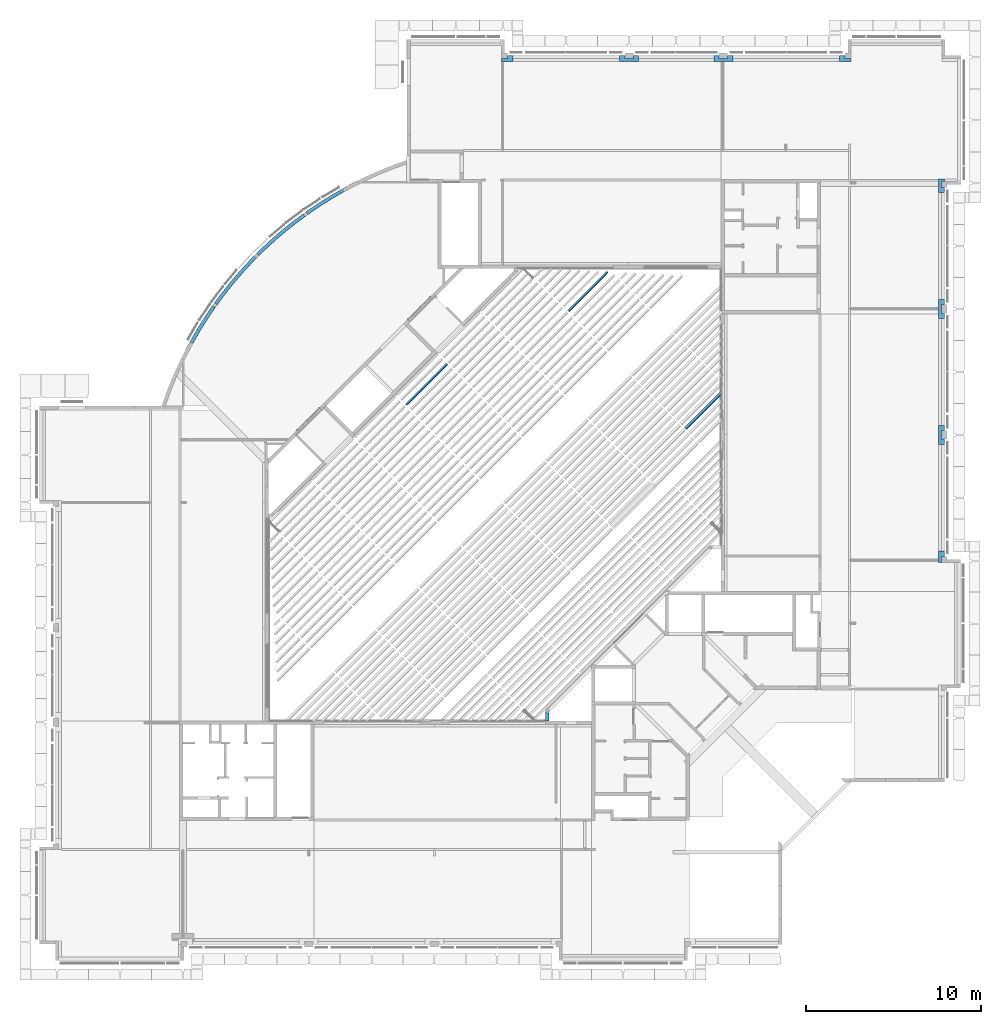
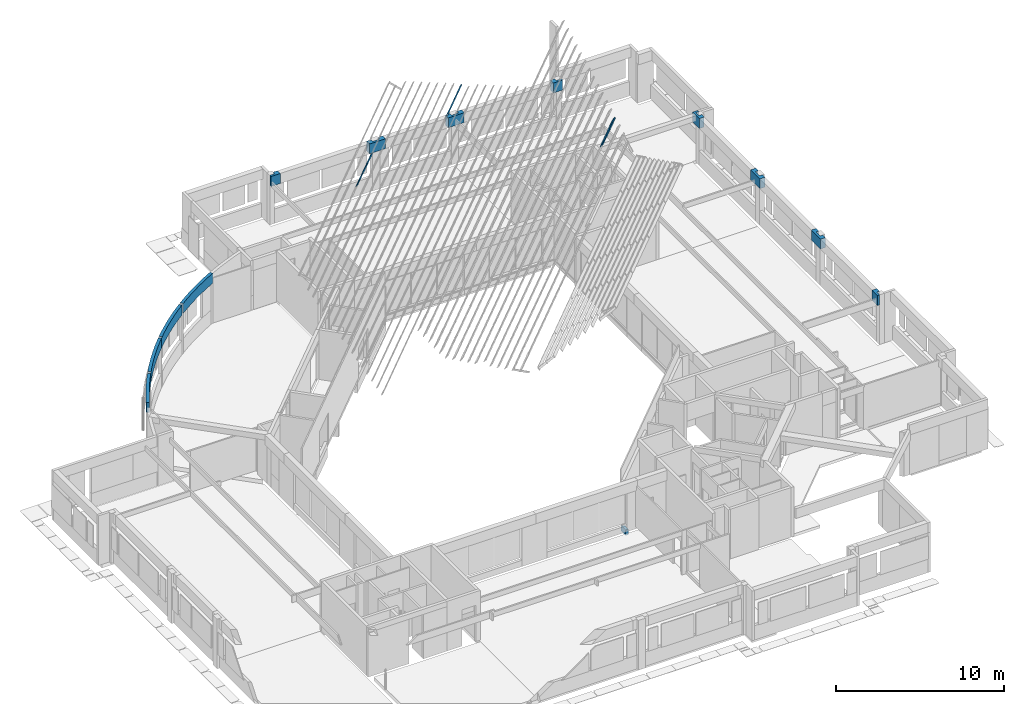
# One storey, part 33 of 37: 16 beams.
"""IFC4X3_ADD2 building model written with IfcOpenShell, lengths in millimetres."""

from ifc_helpers import new_model, si_unit, direction, frame, origin_with_axes, place, context, subcontext, project, spatial, polygons, source, transform, mapped, material, type_object, type_shapes, element, save


model = new_model("IFC4X3_ADD2")

# Units and contexts
model_context = context("Model", 3, precision=1e-05, world=origin_with_axes(), true_north=direction((0.0, 1.0)))
body_context = subcontext(model_context, "Body", "Model", "MODEL_VIEW")
ifc_project = project(units=[si_unit("LENGTHUNIT", "METRE", prefix="MILLI"), si_unit("AREAUNIT", "SQUARE_METRE"), si_unit("VOLUMEUNIT", "CUBIC_METRE"), si_unit("PLANEANGLEUNIT", "RADIAN"), si_unit("TIMEUNIT", "SECOND"), si_unit("MASSUNIT", "GRAM")], contexts=[model_context])

# Site, building, storey
site_placement = place(None, origin_with_axes())
site = spatial("IfcSite", under=ifc_project, at=site_placement, Name="Site", CompositionType="ELEMENT")
building_placement = place(site_placement, origin_with_axes())
building = spatial("IfcBuilding", under=site, at=building_placement, Name="IFC Building Story")
storey_placement = place(building_placement, frame((0.0, 0.0, 3600.0), z_axis=(0.0, 0.0, 1.0), x_axis=(1.0, 0.0, 0.0)))
storey = spatial("IfcBuildingStorey", under=building, at=storey_placement, Name="010", Elevation=3600.0)

# Beams
ifc_material_1 = material(Name="BB_Beton_Bestaand")
beam_type_1 = type_object("IfcBeamType", Name="BB_XX_Betonbalk_ rechthoekig_ center-center_SFB_340 x 720 mm119", PredefinedType="NOTDEFINED")
shared_shape_1 = source(origin_with_axes(), body_context, "Body", "Tessellation", [
    polygons([(0.0, 0.0, 720.000000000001), (0.0, 0.0, 0.0), (150.000000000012, 0.0, 0.0), (150.000000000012, 0.0, 720.000000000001), (1.04902753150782e-12, 640.000000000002, 720.000000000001), (340.000000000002, 639.999999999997, 720.000000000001), (340.000000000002, 640.000000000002, 0.0), (1.04902753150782e-12, 640.000000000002, 0.0), (340.000000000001, 339.999999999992, 0.0), (150.000000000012, 339.999999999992, 0.0), (340.000000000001, 339.999999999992, 720.000000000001), (150.000000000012, 339.999999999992, 720.000000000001)], [[[1, 2, 3, 4]], [[5, 6, 7, 8]], [[2, 1, 5, 8]], [[10, 3, 2]], [[10, 2, 8]], [[8, 7, 9]], [[8, 9, 10]], [[7, 6, 11, 9]], [[12, 11, 6]], [[12, 6, 5]], [[5, 1, 4]], [[5, 4, 12]], [[12, 10, 9, 11]], [[10, 12, 4, 3]]]),
])
type_shapes(beam_type_1, [shared_shape_1])
beam_1_placement = place(storey_placement, frame((-245.0, 21785.0, 2680.0), z_axis=(0.0, 0.0, 1.0), x_axis=(1.0, 0.0, 0.0)))
element("IfcBeam", 1, at=beam_1_placement, inside=storey, type_object=beam_type_1, material=ifc_material_1, Name="BB_XX_Betonbalk, rechthoekig, center-center_SFB:340 x 720 mm", ObjectType="BB_XX_Betonbalk, rechthoekig, center-center_SFB:340 x 720 mm", PredefinedType="BEAM", context=body_context, shape_type="MappedRepresentation", body=[
    mapped(shared_shape_1, transform((0.0, 0.0, 0.0))),
])
beam_type_2 = type_object("IfcBeamType", Name="BB_XX_Betonbalk_ rechthoekig_ center-center_SFB_340 x 720 mm121", PredefinedType="NOTDEFINED")
shared_shape_2 = source(origin_with_axes(), body_context, "Body", "Tessellation", [
    polygons([(0.0, 0.0, 720.000000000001), (0.0, 0.0, 0.0), (340.000000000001, 0.0, 0.0), (340.000000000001, 0.0, 720.000000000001), (1.75965908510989e-12, 1090.0, 720.000000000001), (340.000000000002, 1090.0, 720.000000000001), (340.000000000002, 1090.0, 0.0), (1.75965908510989e-12, 1090.0, 0.0), (340.000000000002, 790.000000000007, 0.0), (149.999999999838, 790.000000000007, 0.0), (149.999999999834, 300.000000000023, 0.0), (340.000000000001, 300.000000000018, 0.0), (340.000000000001, 300.000000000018, 720.000000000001), (149.999999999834, 300.000000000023, 720.000000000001), (149.999999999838, 790.000000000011, 720.000000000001), (340.000000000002, 790.000000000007, 720.000000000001)], [[[1, 2, 3, 4]], [[5, 6, 7, 8]], [[2, 1, 5, 8]], [[11, 12, 3]], [[11, 3, 2]], [[2, 8, 10]], [[2, 10, 11]], [[8, 7, 9]], [[8, 9, 10]], [[4, 3, 12, 13]], [[15, 16, 6]], [[15, 6, 5]], [[5, 1, 14]], [[5, 14, 15]], [[1, 4, 13]], [[1, 13, 14]], [[11, 14, 13, 12]], [[15, 10, 9, 16]], [[14, 11, 10, 15]], [[7, 6, 16, 9]]]),
])
type_shapes(beam_type_2, [shared_shape_2])
beam_2_placement = place(storey_placement, frame((-245.0, 28535.0, 2680.0), z_axis=(0.0, 0.0, 1.0), x_axis=(1.0, 0.0, 0.0)))
element("IfcBeam", 2, at=beam_2_placement, inside=storey, type_object=beam_type_2, material=ifc_material_1, Name="BB_XX_Betonbalk, rechthoekig, center-center_SFB:340 x 720 mm", ObjectType="BB_XX_Betonbalk, rechthoekig, center-center_SFB:340 x 720 mm", PredefinedType="BEAM", context=body_context, shape_type="MappedRepresentation", body=[
    mapped(shared_shape_2, transform((0.0, 0.0, 0.0))),
])
beam_type_3 = type_object("IfcBeamType", Name="BB_XX_Betonbalk_ rechthoekig_ center-center_SFB_340 x 720 mm123", PredefinedType="NOTDEFINED")
shared_shape_3 = source(origin_with_axes(), body_context, "Body", "Tessellation", [
    polygons([(0.0, 4.33146851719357e-12, 720.000000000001), (0.0, 4.33146851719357e-12, 0.0), (340.000000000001, 4.33146851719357e-12, 0.0), (340.000000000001, 4.33146851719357e-12, 720.000000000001), (1.75965908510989e-12, 1090.0, 720.000000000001), (340.000000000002, 1090.0, 720.000000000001), (340.000000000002, 1090.0, 0.0), (1.75965908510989e-12, 1090.0, 0.0), (340.000000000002, 790.000000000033, 0.0), (149.999999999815, 790.000000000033, 0.0), (149.999999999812, 300.000000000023, 0.0), (340.000000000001, 300.000000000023, 0.0), (340.000000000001, 300.000000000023, 720.000000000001), (149.999999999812, 300.000000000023, 720.000000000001), (149.999999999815, 790.000000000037, 720.000000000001), (340.000000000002, 790.000000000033, 720.000000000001)], [[[1, 2, 3, 4]], [[5, 6, 7, 8]], [[2, 1, 5, 8]], [[11, 12, 3]], [[11, 3, 2]], [[2, 8, 10]], [[2, 10, 11]], [[8, 7, 9]], [[8, 9, 10]], [[4, 3, 12, 13]], [[15, 16, 6]], [[15, 6, 5]], [[5, 1, 14]], [[5, 14, 15]], [[1, 4, 13]], [[1, 13, 14]], [[15, 10, 9, 16]], [[11, 14, 13, 12]], [[10, 15, 14, 11]], [[7, 6, 16, 9]]]),
])
type_shapes(beam_type_3, [shared_shape_3])
beam_3_placement = place(storey_placement, frame((-245.0, 35735.0, 2680.0), z_axis=(0.0, 0.0, 1.0), x_axis=(1.0, 0.0, 0.0)))
element("IfcBeam", 3, at=beam_3_placement, inside=storey, type_object=beam_type_3, material=ifc_material_1, Name="BB_XX_Betonbalk, rechthoekig, center-center_SFB:340 x 720 mm", ObjectType="BB_XX_Betonbalk, rechthoekig, center-center_SFB:340 x 720 mm", PredefinedType="BEAM", context=body_context, shape_type="MappedRepresentation", body=[
    mapped(shared_shape_3, transform((0.0, 0.0, 0.0))),
])
beam_type_4 = type_object("IfcBeamType", Name="BB_XX_Betonbalk_ rechthoekig_ center-center_SFB_340 x 720 mm129", PredefinedType="NOTDEFINED")
shared_shape_4 = source(origin_with_axes(), body_context, "Body", "Tessellation", [
    polygons([(640.000000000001, 0.0, -1.08286712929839e-12), (640.000000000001, 8.66293703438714e-12, -720.000000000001), (640.000000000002, 149.999999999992, -720.000000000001), (640.000000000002, 149.999999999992, -1.08286712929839e-12), (1.08286712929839e-12, 0.0, -1.08286712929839e-12), (2.16573425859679e-12, 340.000000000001, -1.08286712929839e-12), (2.16573425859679e-12, 340.000000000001, -720.000000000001), (1.08286712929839e-12, 8.66293703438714e-12, -720.000000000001), (300.000000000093, 340.000000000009, -720.0), (300.000000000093, 149.999999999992, -720.000000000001), (300.000000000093, 340.000000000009, -1.08286712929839e-12), (300.000000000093, 149.999999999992, -1.08286712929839e-12)], [[[1, 2, 3, 4]], [[5, 6, 7, 8]], [[2, 1, 5, 8]], [[10, 3, 2]], [[10, 2, 8]], [[8, 7, 9]], [[8, 9, 10]], [[7, 6, 11, 9]], [[12, 11, 6]], [[12, 6, 5]], [[5, 1, 4]], [[5, 4, 12]], [[12, 10, 9, 11]], [[10, 12, 4, 3]]]),
])
type_shapes(beam_type_4, [shared_shape_4])
beam_4_placement = place(storey_placement, frame((-5910.0, 50455.0, 3400.0), z_axis=(0.0, 0.0, 1.0), x_axis=(1.0, 0.0, 0.0)))
element("IfcBeam", 4, at=beam_4_placement, inside=storey, type_object=beam_type_4, material=ifc_material_1, Name="BB_XX_Betonbalk, rechthoekig, center-center_SFB:340 x 720 mm", ObjectType="BB_XX_Betonbalk, rechthoekig, center-center_SFB:340 x 720 mm", PredefinedType="BEAM", context=body_context, shape_type="MappedRepresentation", body=[
    mapped(shared_shape_4, transform((0.0, 0.0, 0.0))),
])
beam_type_5 = type_object("IfcBeamType", Name="BB_XX_Betonbalk_ rechthoekig_ center-center_SFB_340 x 720 mm131", PredefinedType="NOTDEFINED")
shared_shape_5 = source(origin_with_axes(), body_context, "Body", "Tessellation", [
    polygons([(1090.0, 0.0, -1.08286712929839e-12), (1090.0, 0.0, -720.000000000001), (1090.0, 340.000000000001, -720.000000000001), (1090.0, 340.000000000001, -1.08286712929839e-12), (0.0, 0.0, -1.08286712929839e-12), (0.0, 340.000000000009, -1.08286712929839e-12), (0.0, 340.000000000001, -720.000000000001), (0.0, 0.0, -720.000000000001), (300.000000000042, 340.000000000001, -720.0), (300.000000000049, 149.999999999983, -720.000000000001), (790.000000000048, 150.0, -720.000000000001), (790.000000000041, 340.000000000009, -720.000000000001), (790.000000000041, 340.000000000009, -1.08286712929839e-12), (790.000000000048, 150.0, -1.08286712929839e-12), (300.000000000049, 149.999999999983, -1.08286712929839e-12), (300.000000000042, 340.000000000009, -1.08286712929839e-12)], [[[1, 2, 3, 4]], [[5, 6, 7, 8]], [[2, 1, 5, 8]], [[11, 12, 3]], [[11, 3, 2]], [[2, 8, 10]], [[2, 10, 11]], [[8, 7, 9]], [[8, 9, 10]], [[4, 3, 12, 13]], [[15, 16, 6]], [[15, 6, 5]], [[5, 1, 14]], [[5, 14, 15]], [[1, 4, 13]], [[1, 13, 14]], [[14, 11, 10, 15]], [[15, 10, 9, 16]], [[11, 14, 13, 12]], [[7, 6, 16, 9]]]),
])
type_shapes(beam_type_5, [shared_shape_5])
beam_5_placement = place(storey_placement, frame((-13110.0, 50455.0, 3400.0), z_axis=(0.0, 0.0, 1.0), x_axis=(1.0, 0.0, 0.0)))
element("IfcBeam", 5, at=beam_5_placement, inside=storey, type_object=beam_type_5, material=ifc_material_1, Name="BB_XX_Betonbalk, rechthoekig, center-center_SFB:340 x 720 mm", ObjectType="BB_XX_Betonbalk, rechthoekig, center-center_SFB:340 x 720 mm", PredefinedType="BEAM", context=body_context, shape_type="MappedRepresentation", body=[
    mapped(shared_shape_5, transform((0.0, 0.0, 0.0))),
])
beam_type_6 = type_object("IfcBeamType", Name="BB_XX_Betonbalk_ rechthoekig_ center-center_SFB_340 x 720 mm133", PredefinedType="NOTDEFINED")
shared_shape_6 = source(origin_with_axes(), body_context, "Body", "Tessellation", [
    polygons([(1090.0, 0.0, -1.08286712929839e-12), (1090.0, 0.0, -720.000000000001), (1090.0, 340.000000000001, -720.000000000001), (1090.0, 340.000000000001, -1.08286712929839e-12), (0.0, 0.0, -1.08286712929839e-12), (0.0, 340.000000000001, -1.08286712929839e-12), (0.0, 340.000000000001, -720.000000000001), (0.0, 0.0, -720.000000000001), (300.00000000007, 340.000000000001, -720.0), (300.000000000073, 149.999999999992, -720.000000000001), (790.000000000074, 150.000000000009, -720.000000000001), (790.000000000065, 340.000000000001, -720.000000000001), (790.000000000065, 340.000000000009, -1.08286712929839e-12), (790.000000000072, 150.000000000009, -1.08286712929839e-12), (300.000000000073, 149.999999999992, -1.08286712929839e-12), (300.00000000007, 340.000000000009, -1.08286712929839e-12)], [[[1, 2, 3, 4]], [[5, 6, 7, 8]], [[2, 1, 5, 8]], [[11, 12, 3]], [[11, 3, 2]], [[2, 8, 10]], [[2, 10, 11]], [[8, 7, 9]], [[8, 9, 10]], [[4, 3, 12, 13]], [[15, 16, 6]], [[15, 6, 5]], [[5, 1, 14]], [[5, 14, 15]], [[1, 4, 13]], [[1, 13, 14]], [[14, 11, 10, 15]], [[15, 10, 9, 16]], [[11, 14, 13, 12]], [[7, 6, 16, 9]]]),
])
type_shapes(beam_type_6, [shared_shape_6])
beam_6_placement = place(storey_placement, frame((-18510.0, 50455.0, 3400.0), z_axis=(0.0, 0.0, 1.0), x_axis=(1.0, 0.0, 0.0)))
element("IfcBeam", 6, at=beam_6_placement, inside=storey, type_object=beam_type_6, material=ifc_material_1, Name="BB_XX_Betonbalk, rechthoekig, center-center_SFB:340 x 720 mm", ObjectType="BB_XX_Betonbalk, rechthoekig, center-center_SFB:340 x 720 mm", PredefinedType="BEAM", context=body_context, shape_type="MappedRepresentation", body=[
    mapped(shared_shape_6, transform((0.0, 0.0, 0.0))),
])
beam_type_7 = type_object("IfcBeamType", Name="BB_XX_Betonbalk_ rechthoekig_ center-center_SFB_340 x 720 mm135", PredefinedType="NOTDEFINED")
shared_shape_7 = source(origin_with_axes(), body_context, "Body", "Tessellation", [
    polygons([(640.000000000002, 0.0, -1.08286712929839e-12), (640.000000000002, 8.66293703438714e-12, -720.000000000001), (640.000000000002, 340.000000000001, -720.000000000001), (640.000000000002, 340.000000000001, -1.08286712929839e-12), (0.0, 8.66293703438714e-12, -720.000000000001), (0.0, 0.0, -1.08286712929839e-12), (0.0, 149.999999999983, -1.08286712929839e-12), (0.0, 149.999999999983, -720.000000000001), (339.999999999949, 149.999999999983, -720.000000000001), (339.999999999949, 340.000000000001, -720.000000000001), (339.999999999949, 340.000000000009, -1.08286712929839e-12), (339.999999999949, 149.999999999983, -1.08286712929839e-12)], [[[1, 2, 3, 4]], [[5, 6, 7, 8]], [[2, 1, 6, 5]], [[9, 10, 3]], [[9, 3, 2]], [[2, 5, 8]], [[2, 8, 9]], [[4, 3, 10, 11]], [[12, 7, 6]], [[12, 6, 1]], [[1, 4, 11]], [[1, 11, 12]], [[12, 9, 8, 7]], [[9, 12, 11, 10]]]),
])
type_shapes(beam_type_7, [shared_shape_7])
beam_7_placement = place(storey_placement, frame((-25260.0, 50455.0, 3400.0), z_axis=(0.0, 0.0, 1.0), x_axis=(1.0, 0.0, 0.0)))
element("IfcBeam", 7, at=beam_7_placement, inside=storey, type_object=beam_type_7, material=ifc_material_1, Name="BB_XX_Betonbalk, rechthoekig, center-center_SFB:340 x 720 mm", ObjectType="BB_XX_Betonbalk, rechthoekig, center-center_SFB:340 x 720 mm", PredefinedType="BEAM", context=body_context, shape_type="MappedRepresentation", body=[
    mapped(shared_shape_7, transform((0.0, 0.0, 0.0))),
])
beam_type_8 = type_object("IfcBeamType", Name="BB_XX_Betonbalk_ rechthoekig_ center-center_SFB_200 x 720 mm13", PredefinedType="NOTDEFINED")
shared_shape_8 = source(origin_with_axes(), body_context, "Body", "Tessellation", [
    polygons([(2437.9163952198, 2770.83092903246, 0.0), (2295.85382100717, 2911.60814667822, 1.08286712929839e-12), (2295.85382100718, 2911.60814667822, 720.000000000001), (2437.91639521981, 2770.83092903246, 720.0), (1942.03376688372, 2546.34130651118, 2.16573425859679e-12), (1942.03376688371, 2546.34130651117, 720.000000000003), (1596.61280566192, 2173.12199647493, 4.33146851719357e-12), (1596.61280566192, 2173.12199647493, 720.000000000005), (1259.76952277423, 1792.14318602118, 6.49720277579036e-12), (1259.76952277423, 1792.14318602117, 720.000000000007), (931.678204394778, 1403.60200411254, 7.58006990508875e-12), (931.678204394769, 1403.60200411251, 720.000000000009), (612.508574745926, 1007.69945501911, 9.74580416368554e-12), (612.508574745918, 1007.6994550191, 720.00000000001), (302.425742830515, 604.640350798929, 1.08286712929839e-11), (302.425742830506, 604.640350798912, 720.000000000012), (1.5952722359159, 194.640401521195, 1.29944055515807e-11), (1.5952722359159, 194.640401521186, 720.000000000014), (103.010275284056, 6.25352914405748, 1.19115384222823e-11), (158.15863761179, 85.0135528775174, 1.08286712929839e-11), (2078.02761468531, 2399.07358684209, 1.08286712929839e-12), (1726.91734166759, 2019.01433916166, 3.24860138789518e-12), (1384.77702889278, 1630.86042397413, 5.41433564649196e-12), (1051.79323813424, 1234.82349329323, 6.49720277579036e-12), (728.147538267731, 831.119497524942, 8.66293703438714e-12), (414.016406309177, 419.968567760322, 9.74580416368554e-12), (109.571398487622, 1.59527223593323, 1.19115384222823e-11), (2078.02761468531, 2399.07358684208, 720.000000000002), (1726.9173416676, 2019.01433916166, 720.000000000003), (1384.77702889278, 1630.86042397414, 720.000000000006), (1051.79323813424, 1234.82349329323, 720.000000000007), (728.14753826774, 831.119497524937, 720.00000000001), (414.016406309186, 419.968567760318, 720.000000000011), (109.57139848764, 1.59527223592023, 720.000000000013), (158.158637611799, 85.0135528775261, 720.000000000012), (103.010275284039, 6.25352914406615, 720.000000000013)], [[[1, 2, 3, 4]], [[3, 2, 5, 6]], [[6, 5, 7, 8]], [[8, 7, 9, 10]], [[9, 11, 12, 10]], [[12, 11, 13, 14]], [[14, 13, 15, 16]], [[16, 15, 17, 18]], [[5, 2, 1]], [[5, 1, 21]], [[21, 22, 7]], [[21, 7, 5]], [[22, 23, 9]], [[22, 9, 7]], [[23, 24, 11]], [[23, 11, 9]], [[24, 25, 13]], [[24, 13, 11]], [[25, 26, 15]], [[25, 15, 13]], [[26, 20, 17]], [[26, 17, 15]], [[26, 27, 20]], [[27, 19, 20]], [[21, 1, 4, 28]], [[22, 21, 28, 29]], [[23, 22, 29, 30]], [[30, 31, 24, 23]], [[25, 24, 31, 32]], [[26, 25, 32, 33]], [[27, 26, 33, 34]], [[28, 4, 3]], [[28, 3, 6]], [[6, 8, 29]], [[6, 29, 28]], [[8, 10, 30]], [[8, 30, 29]], [[10, 12, 31]], [[10, 31, 30]], [[12, 14, 32]], [[12, 32, 31]], [[14, 16, 33]], [[14, 33, 32]], [[35, 36, 34]], [[35, 34, 33]], [[33, 16, 18]], [[33, 18, 35]], [[17, 20, 35, 18]], [[19, 36, 35, 20]], [[36, 19, 27, 34]]]),
])
type_shapes(beam_type_8, [shared_shape_8])
beam_8_placement = place(storey_placement, frame((-41694.0034762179, 36444.2555515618, 2680.0), z_axis=(0.0, 0.0, 1.0), x_axis=(1.0, 0.0, 0.0)))
element("IfcBeam", 8, at=beam_8_placement, inside=storey, type_object=beam_type_8, material=ifc_material_1, Name="BB_XX_Betonbalk, rechthoekig, center-center_SFB:200 x 720 mm", ObjectType="BB_XX_Betonbalk, rechthoekig, center-center_SFB:200 x 720 mm", PredefinedType="BEAM", context=body_context, shape_type="MappedRepresentation", body=[
    mapped(shared_shape_8, transform((0.0, 0.0, 0.0))),
])
beam_type_9 = type_object("IfcBeamType", Name="BB_XX_Betonbalk_ rechthoekig_ center-center_SFB_200 x 720 mm15", PredefinedType="NOTDEFINED")
shared_shape_9 = source(origin_with_axes(), body_context, "Body", "Tessellation", [
    polygons([(22.5706792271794, 1.59527223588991, 720.000000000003), (19.5989865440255, 4.54007757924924, 720.000000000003), (19.5989865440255, 4.54007757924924, 3.24860138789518e-12), (22.5706792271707, 1.59527223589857, 3.24860138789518e-12), (2777.72547789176, 2360.21828027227, 0.0), (2660.53096637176, 2522.28445956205, 1.08286712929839e-12), (2660.53096637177, 2522.28445956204, 720.000000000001), (2777.72547789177, 2360.21828027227, 720.0), (2259.54897725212, 2225.45446330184, 2.16573425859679e-12), (2259.54897725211, 2225.45446330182, 720.000000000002), (1865.2902289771, 1919.75189595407, 2.16573425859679e-12), (1865.29022897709, 1919.75189595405, 720.000000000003), (1477.95063123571, 1605.32869224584, 2.16573425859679e-12), (1477.95063123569, 1605.32869224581, 720.000000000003), (1097.72312637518, 1282.34148754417, 3.24860138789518e-12), (1097.72312637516, 1282.34148754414, 720.000000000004), (724.796997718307, 950.951088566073, 3.24860138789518e-12), (724.796997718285, 950.951088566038, 720.000000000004), (359.357894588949, 611.322483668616, 3.24860138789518e-12), (359.357894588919, 611.322483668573, 720.000000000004), (1.5952722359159, 263.632246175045, 4.33146851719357e-12), (1.59527223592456, 263.632246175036, 720.000000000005), (140.143213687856, 125.084304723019, 3.24860138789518e-12), (2361.00228491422, 2051.3824670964, 0.0), (1951.62213612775, 1732.87709375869, 1.08286712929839e-12), (1549.80935357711, 1404.87668698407, 1.08286712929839e-12), (1155.78411272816, 1067.56097635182, 2.16573425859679e-12), (769.762321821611, 721.114795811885, 2.16573425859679e-12), (391.955503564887, 365.7279824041, 2.16573425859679e-12), (2361.00228491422, 2051.38246709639, 720.000000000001), (1951.62213612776, 1732.87709375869, 720.000000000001), (1549.80935357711, 1404.87668698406, 720.000000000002), (1155.78411272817, 1067.56097635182, 720.000000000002), (769.762321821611, 721.114795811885, 720.000000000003), (391.955503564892, 365.727982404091, 720.000000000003), (140.143213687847, 125.084304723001, 720.000000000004)], [[[1, 2, 3, 4]], [[5, 6, 7, 8]], [[7, 6, 9, 10]], [[10, 9, 11, 12]], [[12, 11, 13, 14]], [[13, 15, 16, 14]], [[16, 15, 17, 18]], [[18, 17, 19, 20]], [[20, 19, 21, 22]], [[9, 6, 5]], [[9, 5, 24]], [[24, 25, 11]], [[24, 11, 9]], [[25, 26, 13]], [[25, 13, 11]], [[26, 27, 15]], [[26, 15, 13]], [[27, 28, 17]], [[27, 17, 15]], [[28, 29, 19]], [[28, 19, 17]], [[29, 23, 21]], [[29, 21, 19]], [[29, 4, 23]], [[4, 3, 23]], [[24, 5, 8, 30]], [[25, 24, 30, 31]], [[26, 25, 31, 32]], [[32, 33, 27, 26]], [[28, 27, 33, 34]], [[29, 28, 34, 35]], [[4, 29, 35, 1]], [[30, 8, 7]], [[30, 7, 10]], [[10, 12, 31]], [[10, 31, 30]], [[12, 14, 32]], [[12, 32, 31]], [[14, 16, 33]], [[14, 33, 32]], [[16, 18, 34]], [[16, 34, 33]], [[18, 20, 35]], [[18, 35, 34]], [[36, 2, 1]], [[36, 1, 35]], [[35, 20, 22]], [[35, 22, 36]], [[23, 36, 22, 21]], [[23, 3, 2, 36]]]),
])
type_shapes(beam_type_9, [shared_shape_9])
beam_9_placement = place(storey_placement, frame((-39278.6577602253, 39213.4912083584, 2680.0), z_axis=(0.0, 0.0, 1.0), x_axis=(1.0, 0.0, 0.0)))
element("IfcBeam", 9, at=beam_9_placement, inside=storey, type_object=beam_type_9, material=ifc_material_1, Name="BB_XX_Betonbalk, rechthoekig, center-center_SFB:200 x 720 mm", ObjectType="BB_XX_Betonbalk, rechthoekig, center-center_SFB:200 x 720 mm", PredefinedType="BEAM", context=body_context, shape_type="MappedRepresentation", body=[
    mapped(shared_shape_9, transform((0.0, 0.0, 0.0))),
])
beam_type_10 = type_object("IfcBeamType", Name="BB_XX_Betonbalk_ rechthoekig_ center-center_SFB_200 x 720 mm17", PredefinedType="NOTDEFINED")
shared_shape_10 = source(origin_with_axes(), body_context, "Body", "Tessellation", [
    polygons([(117.347008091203, 1.59527223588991, 720.000000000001), (1.59527223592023, 164.695044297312, 720.000000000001), (1.59527223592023, 164.695044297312, 0.0), (117.347008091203, 1.59527223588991, 0.0), (3205.82353899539, 1836.39474324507, 0.0), (3117.94843208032, 2016.0554389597, 0.0), (3117.94843208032, 2016.0554389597, 720.000000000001), (3205.82353899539, 1836.39474324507, 720.000000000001), (2654.95212782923, 1782.90619636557, 0.0), (2654.95212782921, 1782.90619636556, 720.000000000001), (2197.48559408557, 1539.08552952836, 0.0), (2197.48559408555, 1539.08552952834, 720.000000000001), (1745.79475048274, 1284.72450877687, 0.0), (1745.79475048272, 1284.72450877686, 720.000000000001), (1300.12241182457, 1019.95987060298, 0.0), (1300.12241182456, 1019.95987060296, 720.000000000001), (860.708157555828, 744.933944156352, 0.0), (860.70815755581, 744.933944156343, 720.000000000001), (427.788202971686, 459.794574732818, 0.0), (427.788202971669, 459.794574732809, 720.0), (2746.96886295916, 1605.33108421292, 0.0), (2293.59449212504, 1363.69145973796, 0.0), (1845.94414630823, 1111.60576768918, 0.0), (1404.25846826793, 849.209521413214, 0.0), (968.774894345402, 576.64377688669, 0.0), (539.727526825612, 294.055056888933, 0.0), (2746.96886295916, 1605.33108421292, 720.000000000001), (2293.59449212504, 1363.69145973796, 720.000000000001), (1845.94414630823, 1111.60576768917, 720.000000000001), (1404.25846826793, 849.209521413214, 720.000000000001), (968.774894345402, 576.64377688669, 720.000000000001), (539.727526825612, 294.055056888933, 720.0)], [[[1, 2, 3, 4]], [[5, 6, 7, 8]], [[7, 6, 9, 10]], [[10, 9, 11, 12]], [[12, 11, 13, 14]], [[13, 15, 16, 14]], [[16, 15, 17, 18]], [[18, 17, 19, 20]], [[20, 19, 3, 2]], [[9, 6, 5]], [[9, 5, 21]], [[21, 22, 11]], [[21, 11, 9]], [[22, 23, 13]], [[22, 13, 11]], [[23, 24, 15]], [[23, 15, 13]], [[24, 25, 17]], [[24, 17, 15]], [[25, 26, 19]], [[25, 19, 17]], [[26, 4, 3]], [[26, 3, 19]], [[21, 5, 8, 27]], [[22, 21, 27, 28]], [[23, 22, 28, 29]], [[29, 30, 24, 23]], [[25, 24, 30, 31]], [[26, 25, 31, 32]], [[4, 26, 32, 1]], [[27, 8, 7]], [[27, 7, 10]], [[10, 12, 28]], [[10, 28, 27]], [[12, 14, 29]], [[12, 29, 28]], [[14, 16, 30]], [[14, 30, 29]], [[16, 18, 31]], [[16, 31, 30]], [[18, 20, 32]], [[18, 32, 31]], [[20, 2, 1]], [[20, 1, 32]]]),
])
type_shapes(beam_type_10, [shared_shape_10])
beam_10_placement = place(storey_placement, frame((-36458.4328904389, 41686.6268794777, 2680.0), z_axis=(0.0, 0.0, 1.0), x_axis=(1.0, 0.0, 0.0)))
element("IfcBeam", 10, at=beam_10_placement, inside=storey, type_object=beam_type_10, material=ifc_material_1, Name="BB_XX_Betonbalk, rechthoekig, center-center_SFB:200 x 720 mm", ObjectType="BB_XX_Betonbalk, rechthoekig, center-center_SFB:200 x 720 mm", PredefinedType="BEAM", context=body_context, shape_type="MappedRepresentation", body=[
    mapped(shared_shape_10, transform((0.0, 0.0, 0.0))),
])
beam_type_11 = type_object("IfcBeamType", Name="BB_XX_Betonbalk_ rechthoekig_ center-center_SFB_340 x 720 mm149", PredefinedType="NOTDEFINED")
shared_shape_11 = source(origin_with_axes(), body_context, "Body", "Tessellation", [
    polygons([(0.0, 0.0, 720.000000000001), (0.0, 0.0, 0.0), (340.000000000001, 0.0, 0.0), (340.000000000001, 0.0, 720.000000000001), (1.28590471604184e-12, 790.000000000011, 720.000000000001), (340.000000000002, 790.000000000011, 720.000000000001), (340.000000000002, 790.000000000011, 0.0), (1.28590471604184e-12, 790.000000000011, 0.0), (340.000000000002, 640.000000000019, 0.0), (149.999999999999, 640.000000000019, 0.0), (150.000000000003, 300.00000000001, 0.0), (340.000000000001, 300.00000000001, 0.0), (340.000000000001, 300.00000000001, 720.000000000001), (150.000000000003, 300.00000000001, 720.000000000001), (149.999999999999, 640.000000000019, 720.000000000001), (340.000000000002, 640.000000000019, 720.000000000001)], [[[1, 2, 3, 4]], [[5, 6, 7, 8]], [[2, 1, 5, 8]], [[11, 12, 3]], [[11, 3, 2]], [[2, 8, 10]], [[2, 10, 11]], [[8, 7, 9]], [[8, 9, 10]], [[4, 3, 12, 13]], [[15, 16, 6]], [[15, 6, 5]], [[5, 1, 14]], [[5, 14, 15]], [[1, 4, 13]], [[1, 13, 14]], [[11, 14, 13, 12]], [[15, 10, 9, 16]], [[14, 11, 10, 15]], [[7, 6, 16, 9]]]),
])
type_shapes(beam_type_11, [shared_shape_11])
beam_11_placement = place(storey_placement, frame((-245.0, 42935.0, 2680.0), z_axis=(0.0, 0.0, 1.0), x_axis=(1.0, 0.0, 0.0)))
element("IfcBeam", 11, at=beam_11_placement, inside=storey, type_object=beam_type_11, material=ifc_material_1, Name="BB_XX_Betonbalk, rechthoekig, center-center_SFB:340 x 720 mm", ObjectType="BB_XX_Betonbalk, rechthoekig, center-center_SFB:340 x 720 mm", PredefinedType="BEAM", context=body_context, shape_type="MappedRepresentation", body=[
    mapped(shared_shape_11, transform((0.0, 0.0, 0.0))),
])
beam_type_12 = type_object("IfcBeamType", Name="BB_XX_Betonbalk_ rechthoekig_ center-center_SFB_200 x 720 mm23", PredefinedType="NOTDEFINED")
shared_shape_12 = source(origin_with_axes(), body_context, "Body", "Tessellation", [
    polygons([(179.141496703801, 1.59527223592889, 720.000000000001), (1.59527223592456, 93.6677337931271, 720.000000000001), (1.59527223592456, 93.6677337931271, 0.0), (179.141496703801, 1.59527223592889, 0.0), (1782.06169273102, 2628.40289045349, 0.0), (1775.50056952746, 2633.06114736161, 0.0), (1775.50056952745, 2633.06114736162, 720.000000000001), (1782.06169273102, 2628.40289045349, 720.000000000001), (1275.18038918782, 2245.77863819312, 720.000000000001), (1275.18038918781, 2245.77863819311, 0.0), (1001.32110217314, 1826.97604566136, 0.0), (1001.32110217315, 1826.97604566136, 720.000000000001), (736.902901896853, 1402.14943163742, 0.0), (736.902901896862, 1402.14943163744, 720.000000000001), (1558.33843524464, 2658.34011580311, 0.0), (1558.33843524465, 2658.34011580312, 720.000000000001), (482.058237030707, 971.511578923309, 720.000000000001), (482.058237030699, 971.511578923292, 0.0), (236.914798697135, 535.278248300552, 0.0), (236.914798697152, 535.278248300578, 720.000000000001), (1715.93364458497, 2547.9907622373, 0.0), (1489.78782317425, 2206.4681408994, 0.0), (1207.3654972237, 1777.87675331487, 0.0), (934.946257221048, 1342.85870152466, 0.0), (672.676278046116, 901.647407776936, 0.0), (420.696288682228, 454.47961749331, 0.0), (1489.78782317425, 2206.4681408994, 720.000000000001), (1207.36549722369, 1777.87675331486, 720.000000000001), (934.946257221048, 1342.85870152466, 720.000000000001), (672.676278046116, 901.647407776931, 720.000000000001), (420.696288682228, 454.479617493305, 720.000000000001), (1715.93364458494, 2547.9907622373, 720.000000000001)], [[[1, 2, 3, 4]], [[5, 6, 7, 8]], [[9, 10, 11, 12]], [[12, 11, 13, 14]], [[15, 10, 9, 16]], [[17, 18, 19, 20]], [[20, 19, 3, 2]], [[14, 13, 18, 17]], [[21, 6, 5]], [[21, 5, 22]], [[22, 10, 15]], [[22, 15, 21]], [[22, 23, 11]], [[22, 11, 10]], [[23, 24, 13]], [[23, 13, 11]], [[24, 25, 18]], [[24, 18, 13]], [[25, 26, 19]], [[25, 19, 18]], [[26, 4, 3]], [[26, 3, 19]], [[23, 22, 27, 28]], [[24, 23, 28, 29]], [[8, 27, 22, 5]], [[26, 25, 30, 31]], [[4, 26, 31, 1]], [[30, 25, 24, 29]], [[32, 16, 9]], [[32, 9, 27]], [[27, 8, 32]], [[8, 7, 32]], [[9, 12, 28]], [[9, 28, 27]], [[12, 14, 29]], [[12, 29, 28]], [[14, 17, 30]], [[14, 30, 29]], [[17, 20, 31]], [[17, 31, 30]], [[20, 2, 1]], [[20, 1, 31]], [[15, 16, 32, 21]], [[21, 32, 7, 6]]]),
])
type_shapes(beam_type_12, [shared_shape_12])
beam_12_placement = place(storey_placement, frame((-43366.4937704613, 33817.4479333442, 2680.0), z_axis=(0.0, 0.0, 1.0), x_axis=(1.0, 0.0, 0.0)))
element("IfcBeam", 12, at=beam_12_placement, inside=storey, type_object=beam_type_12, material=ifc_material_1, Name="BB_XX_Betonbalk, rechthoekig, center-center_SFB:200 x 720 mm", ObjectType="BB_XX_Betonbalk, rechthoekig, center-center_SFB:200 x 720 mm", PredefinedType="BEAM", context=body_context, shape_type="MappedRepresentation", body=[
    mapped(shared_shape_12, transform((0.0, 0.0, 0.0))),
])
ifc_material_2 = material(Name="GVH_i2_naaldhout_generiek")
beam_type_13 = type_object("IfcBeamType", Name="28_SF_hout_rechthoekig_40 x 230_15", PredefinedType="NOTDEFINED")
shared_shape_13 = source(origin_with_axes(), body_context, "Body", "Tessellation", [
    polygons([(97.1289361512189, -4.33146851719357e-12, -17.6458523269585), (71.7456355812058, 25.3833005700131, 0.0), (0.0, 97.1289361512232, -206.410095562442), (25.3833005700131, 71.7456355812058, -224.055947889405), (2274.91106713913, 2321.2734021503, -224.055947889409), (2249.52776656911, 2346.65670272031, -206.410095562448), (2302.55714939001, 2293.62731989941, -53.8461118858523), (2327.94044996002, 2268.2440193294, -71.491964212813), (2247.66175335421, 2150.53281720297, -17.6458523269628), (2222.27845278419, 2175.91611777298, -2.16573425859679e-12), (2203.56220002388, 2194.63237053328, -53.846111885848), (2228.94550059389, 2169.24906996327, -71.4919642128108)], [[[1, 2, 3, 4]], [[5, 6, 7, 8]], [[2, 1, 9, 10]], [[11, 7, 6]], [[11, 6, 3]], [[11, 3, 2]], [[2, 10, 11]], [[4, 3, 6, 5]], [[12, 9, 1]], [[1, 4, 5]], [[1, 5, 12]], [[5, 8, 12]], [[12, 11, 10, 9]], [[11, 12, 8, 7]]]),
])
type_shapes(beam_type_13, [shared_shape_13])
beam_13_placement = place(storey_placement, frame((-21488.3397857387, 36101.6028261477, 15324.8667710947), z_axis=(0.0, 0.0, 1.0), x_axis=(1.0, 0.0, 0.0)))
element("IfcBeam", 13, at=beam_13_placement, inside=storey, type_object=beam_type_13, material=ifc_material_2, Name="28_SF_hout_rechthoekig:40 x 230", ObjectType="28_SF_hout_rechthoekig:40 x 230", PredefinedType="BEAM", context=body_context, shape_type="MappedRepresentation", body=[
    mapped(shared_shape_13, transform((0.0, 0.0, 0.0))),
])
beam_type_14 = type_object("IfcBeamType", Name="28_SF_hout_rechthoekig_40 x 230_163", PredefinedType="NOTDEFINED")
shared_shape_14 = source(origin_with_axes(), body_context, "Body", "Tessellation", [
    polygons([(76.5410413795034, 4.33146851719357e-12, -53.5286278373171), (51.157740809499, 25.3833005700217, -35.8827755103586), (-4.33146851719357e-12, 76.5410413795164, -183.062099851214), (25.3833005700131, 51.157740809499, -200.707952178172), (2434.67750674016, 2333.19163377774, -17.6458523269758), (2362.93187115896, 2404.93726935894, -224.055947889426), (2337.54857058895, 2430.32056992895, -206.410095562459), (2409.29420617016, 2358.57493434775, -1.73258740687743e-11), (141.41190253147, 90.6926307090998, -8.66293703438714e-12), (166.795203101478, 65.3093301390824, -17.6458523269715), (69.6662669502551, 162.438266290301, -206.410095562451), (77.7817459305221, 154.32278731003, -183.062099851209), (128.939486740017, 103.165046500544, -35.8827755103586), (95.0495675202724, 137.054965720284, -224.055947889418), (154.322787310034, 77.7817459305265, -53.5286278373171), (103.165046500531, 128.939486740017, -200.707952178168)], [[[1, 2, 3, 4]], [[5, 6, 7, 8]], [[5, 8, 9, 10]], [[13, 9, 12]], [[12, 3, 2]], [[12, 2, 13]], [[12, 9, 8]], [[12, 8, 7]], [[7, 11, 12]], [[7, 6, 14, 11]], [[16, 14, 15]], [[15, 1, 4]], [[15, 4, 16]], [[15, 14, 6]], [[15, 6, 5]], [[5, 10, 15]], [[13, 15, 10, 9]], [[15, 13, 2, 1]], [[16, 12, 11, 14]], [[12, 16, 4, 3]]]),
])
type_shapes(beam_type_14, [shared_shape_14])
beam_14_placement = place(storey_placement, frame((-30767.0183727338, 30761.1851045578, 16692.2438700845), z_axis=(0.0, 0.0, 1.0), x_axis=(1.0, 0.0, 0.0)))
element("IfcBeam", 14, at=beam_14_placement, inside=storey, type_object=beam_type_14, material=ifc_material_2, Name="28_SF_hout_rechthoekig:40 x 230", ObjectType="28_SF_hout_rechthoekig:40 x 230", PredefinedType="BEAM", context=body_context, shape_type="MappedRepresentation", body=[
    mapped(shared_shape_14, transform((0.0, 0.0, 0.0))),
])
beam_type_15 = type_object("IfcBeamType", Name="28_SF_hout_rechthoekig_40 x 230_519", PredefinedType="NOTDEFINED")
shared_shape_15 = source(origin_with_axes(), body_context, "Body", "Tessellation", [
    polygons([(121.511608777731, 8.66293703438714e-12, -24.3693449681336), (99.0824422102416, 22.429166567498, 0.0), (2.16573425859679e-12, 121.511608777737, -182.387881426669), (22.4291665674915, 99.0824422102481, -206.757226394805), (2165.86807902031, 2123.28151059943, -31.3544681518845), (2188.2972455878, 2100.85234403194, -55.7238131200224), (2109.46206022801, 2179.68752939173, -200.84117315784), (2087.03289366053, 2202.11669595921, -176.471828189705), (2099.26458202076, 1977.75297324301, -24.3693449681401), (2076.83541545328, 2000.18213981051, -6.49720277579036e-12), (2059.80206184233, 2017.21549342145, -31.3544681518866), (1980.96687648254, 2096.05067878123, -176.471828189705), (1977.75297324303, 2099.26458202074, -182.387881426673), (2000.18213981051, 2076.83541545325, -206.757226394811), (2003.39604305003, 2073.62151221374, -200.841173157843), (2082.23122840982, 1994.78632685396, -55.7238131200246)], [[[1, 2, 3, 4]], [[5, 6, 7, 8]], [[2, 1, 9, 10]], [[11, 5, 8]], [[11, 8, 12]], [[12, 13, 3]], [[3, 11, 12]], [[3, 2, 10]], [[3, 10, 11]], [[4, 3, 13, 14]], [[16, 9, 15]], [[15, 7, 6]], [[15, 6, 16]], [[9, 1, 4]], [[9, 4, 15]], [[4, 14, 15]], [[11, 16, 6, 5]], [[16, 11, 10, 9]], [[12, 15, 14, 13]], [[15, 12, 8, 7]]]),
])
type_shapes(beam_type_15, [shared_shape_15])
beam_15_placement = place(storey_placement, frame((-14796.5235209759, 29382.8370378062, 14796.4896411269), z_axis=(0.0, 0.0, 1.0), x_axis=(1.0, 0.0, 0.0)))
element("IfcBeam", 15, at=beam_15_placement, inside=storey, type_object=beam_type_15, material=ifc_material_2, Name="28_SF_hout_rechthoekig:40 x 230", ObjectType="28_SF_hout_rechthoekig:40 x 230", PredefinedType="BEAM", context=body_context, shape_type="MappedRepresentation", body=[
    mapped(shared_shape_15, transform((0.0, 0.0, 0.0))),
])
beam_type_16 = type_object("IfcBeamType", Name="BB_XX_Betonbalk_ rechthoekig_ center-center_SFB_190 x 400 mm5", PredefinedType="NOTDEFINED")
shared_shape_16 = source(origin_with_axes(), body_context, "Body", "Tessellation", [
    polygons([(0.0, 563.002229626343, 0.0), (0.0, 563.002229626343, 400.000000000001), (2.77540874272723, 563.002229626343, 400.000000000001), (2.77540874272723, 563.002229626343, 0.0), (190.0, -2.16573425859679e-12, 400.000000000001), (0.0, -2.16573425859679e-12, 400.000000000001), (0.0, -2.16573425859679e-12, 0.0), (190.0, -2.16573425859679e-12, 0.0), (190.0, 485.715395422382, 0.0), (190.0, 485.715395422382, 400.000000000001), (135.03112147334, 430.746516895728, 0.0), (135.03112147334, 430.746516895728, 400.000000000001)], [[[1, 2, 3, 4]], [[5, 6, 7, 8]], [[5, 8, 9, 10]], [[11, 9, 8]], [[8, 7, 1]], [[8, 1, 4]], [[8, 4, 11]], [[2, 1, 7, 6]], [[12, 3, 2]], [[12, 2, 6]], [[12, 6, 5]], [[5, 10, 12]], [[12, 11, 4, 3]], [[11, 12, 10, 9]]]),
])
type_shapes(beam_type_16, [shared_shape_16])
beam_16_placement = place(storey_placement, frame((-22744.8526351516, 12695.004065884, -600.0), z_axis=(0.0, 0.0, 1.0), x_axis=(1.0, 0.0, 0.0)))
element("IfcBeam", 16, at=beam_16_placement, inside=storey, type_object=beam_type_16, material=ifc_material_1, Name="BB_XX_Betonbalk, rechthoekig, center-center_SFB:190 x 400 mm", ObjectType="BB_XX_Betonbalk, rechthoekig, center-center_SFB:190 x 400 mm", PredefinedType="BEAM", context=body_context, shape_type="MappedRepresentation", body=[
    mapped(shared_shape_16, transform((0.0, 0.0, 0.0))),
])

save(model, "model.ifc")
